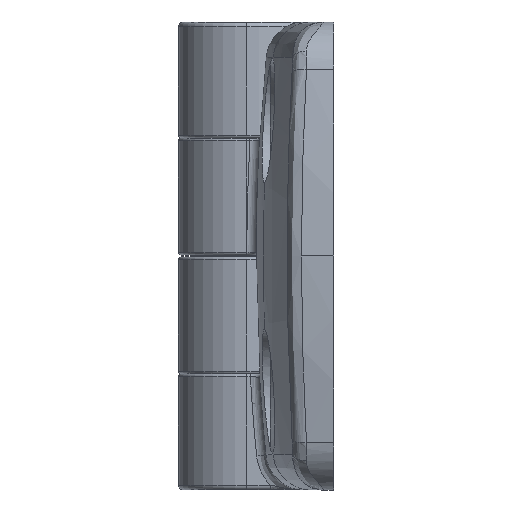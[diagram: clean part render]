
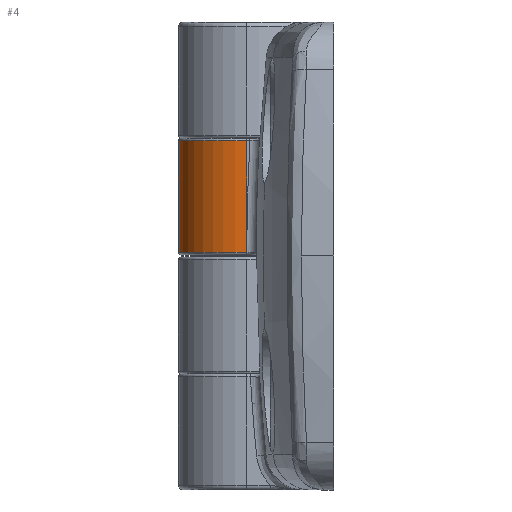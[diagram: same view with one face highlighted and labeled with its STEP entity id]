
A CAD part, left-side view. The second image highlights one B-rep face of the part: STEP entity #4.
In plain terms, the highlighted cylindrical face has radius 7 mm (diameter 14 mm), a partial arc.
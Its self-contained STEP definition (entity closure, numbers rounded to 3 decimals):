
#4 = ADVANCED_FACE ( 'NONE', ( #13917 ), #5845, .T. ) ;
#317 = CARTESIAN_POINT ( 'NONE',  ( 24., 8.9, 0. ) ) ;
#318 = VECTOR ( 'NONE', #9293, 1000. ) ;
#402 = CARTESIAN_POINT ( 'NONE',  ( -0.4, 8.9, 0. ) ) ;
#796 = ORIENTED_EDGE ( 'NONE', *, *, #6540, .F. ) ;
#2005 = CARTESIAN_POINT ( 'NONE',  ( -11.8, 8.9, 7. ) ) ;
#2261 = VERTEX_POINT ( 'NONE', #5575 ) ;
#2602 = DIRECTION ( 'NONE',  ( 0., 0., 1. ) ) ;
#3012 = CARTESIAN_POINT ( 'NONE',  ( -11.8, 8.9, 0. ) ) ;
#3100 = CIRCLE ( 'NONE', #12016, 7. ) ;
#3818 = ORIENTED_EDGE ( 'NONE', *, *, #6803, .T. ) ;
#4204 = EDGE_LOOP ( 'NONE', ( #796, #9653, #9606, #3818 ) ) ;
#4448 = LINE ( 'NONE', #11353, #318 ) ;
#4756 = DIRECTION ( 'NONE',  ( 0., 0., -1. ) ) ;
#5148 = DIRECTION ( 'NONE',  ( 0., 0., -1. ) ) ;
#5162 = LINE ( 'NONE', #13091, #8014 ) ;
#5179 = CARTESIAN_POINT ( 'NONE',  ( -11.8, 8.9, -7. ) ) ;
#5575 = CARTESIAN_POINT ( 'NONE',  ( -0.4, 8.9, 7. ) ) ;
#5845 = CYLINDRICAL_SURFACE ( 'NONE', #9911, 7. ) ;
#6540 = EDGE_CURVE ( 'NONE', #2261, #12158, #5162, .T. ) ;
#6803 = EDGE_CURVE ( 'NONE', #13318, #12158, #3100, .T. ) ;
#8014 = VECTOR ( 'NONE', #10961, 1000. ) ;
#8146 = CIRCLE ( 'NONE', #9078, 7. ) ;
#9078 = AXIS2_PLACEMENT_3D ( 'NONE', #402, #10320, #4756 ) ;
#9288 = DIRECTION ( 'NONE',  ( -1., 0., 0. ) ) ;
#9293 = DIRECTION ( 'NONE',  ( -1., 0., 0. ) ) ;
#9606 = ORIENTED_EDGE ( 'NONE', *, *, #9859, .T. ) ;
#9653 = ORIENTED_EDGE ( 'NONE', *, *, #13157, .T. ) ;
#9859 = EDGE_CURVE ( 'NONE', #10732, #13318, #4448, .T. ) ;
#9911 = AXIS2_PLACEMENT_3D ( 'NONE', #317, #9288, #2602 ) ;
#10320 = DIRECTION ( 'NONE',  ( -1., 0., 0. ) ) ;
#10732 = VERTEX_POINT ( 'NONE', #12355 ) ;
#10961 = DIRECTION ( 'NONE',  ( -1., 0., 0. ) ) ;
#11353 = CARTESIAN_POINT ( 'NONE',  ( 24., 8.9, -7. ) ) ;
#12016 = AXIS2_PLACEMENT_3D ( 'NONE', #3012, #14111, #5148 ) ;
#12158 = VERTEX_POINT ( 'NONE', #2005 ) ;
#12355 = CARTESIAN_POINT ( 'NONE',  ( -0.4, 8.9, -7. ) ) ;
#13091 = CARTESIAN_POINT ( 'NONE',  ( 24., 8.9, 7. ) ) ;
#13157 = EDGE_CURVE ( 'NONE', #2261, #10732, #8146, .T. ) ;
#13318 = VERTEX_POINT ( 'NONE', #5179 ) ;
#13917 = FACE_OUTER_BOUND ( 'NONE', #4204, .T. ) ;
#14111 = DIRECTION ( 'NONE',  ( 1., 0., 0. ) ) ;
